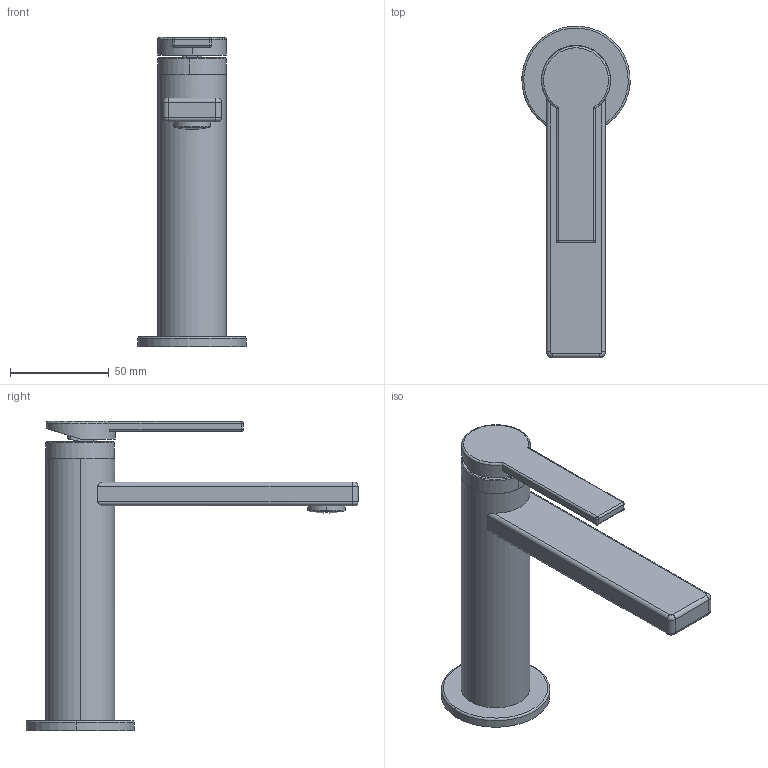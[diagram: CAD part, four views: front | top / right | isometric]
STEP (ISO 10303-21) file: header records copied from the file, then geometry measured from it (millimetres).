
FILE_DESCRIPTION (( 'STEP AP203' ), '1' );
FILE_NAME ('MAC1.STEP', '2024-01-24T09:26:16', ( '' ), ( '' ), 'SwSTEP 2.0', 'SolidWorks 2023', '' );
FILE_SCHEMA (( 'CONFIG_CONTROL_DESIGN' ));
Length unit declared in the file: millimetre
Products named in the file (14): OR607178ACS; EU1862_0; OR272ACS; EU0085_1; C23.0824.01; EU1860_0; C13.00.0013; CARTKEN; C23.1018.01; MAC1; EU1868_0; GRANCO M4x5 ACCIAIO; C24.1861.00.1; GAL575135
Assembly tree (13 placements, depth 2):
  MAC1
    EU1860_0
    EU1868_0
    GAL575135
    C23.1018.01
    C24.1861.00.1
    C23.0824.01
    EU1862_0
    OR272ACS
    CARTKEN
    C13.00.0013
    EU0085_1
    OR607178ACS
    GRANCO M4x5 ACCIAIO
Bounding box: 54.85 x 168.44 x 156.81 mm (x, y, z)
Volume: 131395.2 mm3; surface area: 69747.3 mm2
Topology: 15 solids, 15 shells, 597 faces, 1403 edges, 888 vertices
Faces by surface type: plane 239, cylinder 222, cone 72, torus 31, bspline 29, sphere 4
Entity records: 19953 total; most frequent: CARTESIAN_POINT 4576, DIRECTION 3076, ORIENTED_EDGE 2778, EDGE_CURVE 1389, AXIS2_PLACEMENT_3D 1226, VERTEX_POINT 888, EDGE_LOOP 687, CIRCLE 642
